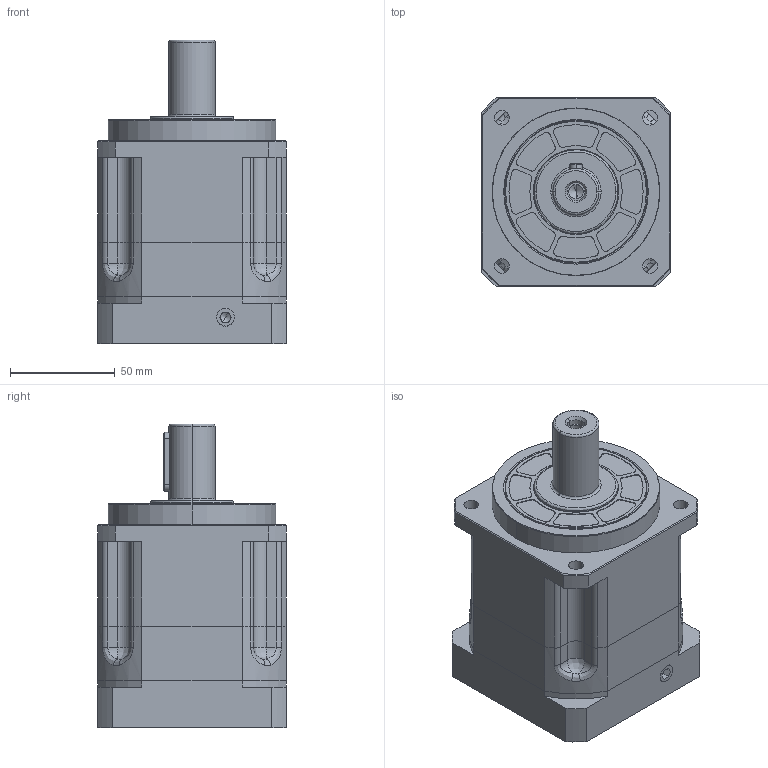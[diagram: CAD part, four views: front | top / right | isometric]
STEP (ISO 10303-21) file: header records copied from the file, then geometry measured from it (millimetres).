
FILE_DESCRIPTION (( 'STEP AP214' ), '1' );
FILE_NAME ('OB090L1-70-19-M5.STEP', '2020-08-12T05:38:36', ( '微软用户' ), ( '微软中国' ), 'SwSTEP 2.0', 'SolidWorks 2014', '' );
FILE_SCHEMA (( 'AUTOMOTIVE_DESIGN' ));
Length unit declared in the file: millimetre
Products named in the file (76): 囀喘謫Z84; 俴陎謫菜え10.4X22; 俴陎粣10.347; Hexagon socket head cap screws GB_GB_FASTENER_SCREWS_HSHCS M5X20-N; OB090L1-70-19-M5; 俴陎謫5A; Plain parallel keys_GB_CONNECTING_PIECE_KEYS_CSK 6X28; Hexagon socket head cap screws GB_GB_FASTENER_SCREWS_HSHCS M6X20-N; Circlips for hole--Type B GB_GB_CONNECTING_PIECE_RINGS_CHB 68; 蚐猾45X68X8; Hex socket set screws with flat point GB_GB_FASTENER_SCREWS_HSFP M10X12-N; Deep groove ball bearings GB_Rolling bearings 6008 GB 276-94; 22-19粣杶; Deep groove ball bearings GB_Rolling bearings 61812 GB 276-94; Spring lock washers--Normal type GB_GB_FASTENER_WASHER_SW 6; 薊粣ん22K15; 怀堤粣5A; Plain parallel keys_GB_CONNECTING_PIECE_KEYS_CSK C4X12; Circlips for hole--Type B GB_GB_CONNECTING_PIECE_RINGS_CHB 42; 幗渀粣創10.347X15.347; Spring lock washers--Normal type GB_GB_FASTENER_WASHER_SW 5; Circlips for shaft--Type A large GB_GB_CONNECTING_PIECE_RING_RRA 35; Deep groove ball bearings GB_Rolling bearings 6007 GB 276-94; 怮栠謫5A; 90K70萇儂楊擘; 输入端盖
Assembly tree (50 placements, depth 2):
  囀喘謫Z84
  俴陎謫菜え10.4X22
  Hexagon socket head cap screws GB_GB_FASTENER_SCREWS_HSHCS M5X20-N
  OB090L1-70-19-M5
    囀喘謫Z84
    怀堤粣5A
    Deep groove ball bearings GB_Rolling bearings 61812 GB 276-94
    Deep groove ball bearings GB_Rolling bearings 6008 GB 276-94
    蚐猾45X68X8
    Plain parallel keys_GB_CONNECTING_PIECE_KEYS_CSK 6X28
    俴陎粣10.347  x3
    俴陎謫菜え10.4X22  x6
    幗渀粣創10.347X15.347  x3
    俴陎謫5A  x3
    输入端盖
    90K70萇儂楊擘
    怮栠謫5A
    Deep groove ball bearings GB_Rolling bearings 6007 GB 276-94
    Circlips for shaft--Type A large GB_GB_CONNECTING_PIECE_RING_RRA 35
    Spring lock washers--Normal type GB_GB_FASTENER_WASHER_SW 5  x4
    Hexagon socket head cap screws GB_GB_FASTENER_SCREWS_HSHCS M6X20-N  x5
    Spring lock washers--Normal type GB_GB_FASTENER_WASHER_SW 6  x4
    Hexagon socket head cap screws GB_GB_FASTENER_SCREWS_HSHCS M5X20-N  x4
    Circlips for hole--Type B GB_GB_CONNECTING_PIECE_RINGS_CHB 42
    Plain parallel keys_GB_CONNECTING_PIECE_KEYS_CSK C4X12
    薊粣ん22K15
    22-19粣杶
    Hex socket set screws with flat point GB_GB_FASTENER_SCREWS_HSFP M10X12-N  x2
    Circlips for hole--Type B GB_GB_CONNECTING_PIECE_RINGS_CHB 68
  俴陎謫5A
Bounding box: 90 x 90 x 145 mm (x, y, z)
Volume: 627131.1 mm3; surface area: 229978.1 mm2
Topology: 50 solids, 50 shells, 1733 faces, 5509 edges, 3366 vertices
Faces by surface type: cylinder 558, bspline 527, plane 435, cone 173, torus 40
Entity records: 67426 total; most frequent: CARTESIAN_POINT 29810, ORIENTED_EDGE 8646, DIRECTION 6584, EDGE_CURVE 4323, VERTEX_POINT 2882, AXIS2_PLACEMENT_3D 2823, CIRCLE 1900, EDGE_LOOP 1539
